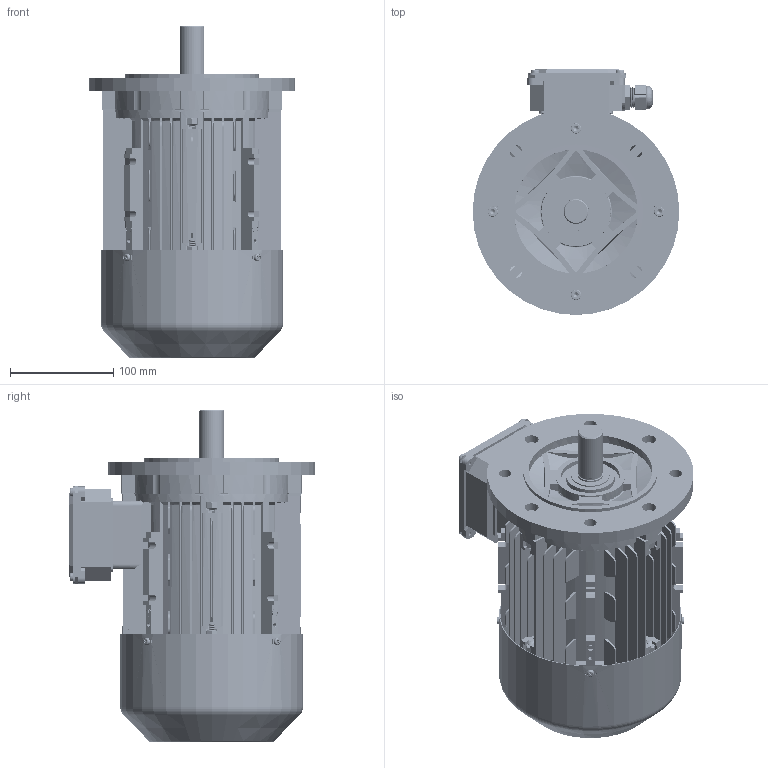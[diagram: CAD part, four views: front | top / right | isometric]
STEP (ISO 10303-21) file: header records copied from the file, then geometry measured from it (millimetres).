
FILE_DESCRIPTION (( 'STEP AP203' ), '1' );
FILE_NAME ('ME3-90SB5 3D.STEP', '2024-06-06T09:42:01', ( 'User' ), ( 'China' ), 'SwSTEP 2.0', 'SolidWorks 2018', '' );
FILE_SCHEMA (( 'CONFIG_CONTROL_DESIGN' ));
Length unit declared in the file: millimetre
Products named in the file (19): deep groove ball bearings gb_Rolling bearings 6205 GB 276-94; ME3-90SB5  3D; hexagon socket head cap screws gb_GB_FASTENER_SCREWS_HSHCS M6X35-S; 8.200.09005蛌粣ME3-90; hexagon nuts grade c gb_GB_FASTENER_NUT_SNC1 M6-S; MS63-71諉盄碟菁釱; 8.306.09004ME2-90瑞欶; MS63-71諉盄碟裔; cross recessed cheese head screws gb_GB_CROSS_SCREWS_TYPE2 M4X6-6  H type-N; 蹟杶郋M20X1.5; 蚐猾37X25X7; 蹟簸M20X1.5; spring lock washers--normal type gb_GB_FASTENER_WASHER_SW 6; Y2 80瑞珔; 8.014.09013 ME2 90B5; circlips for shaft--type a large gb_GB_CONNECTING_PIECE_RING_RRA 19; 8.034.09004ME2-90S儂褲; 黑芛20X1.5; cross recessed cheese head screws gb_GB_CROSS_SCREWS_TYPE2 M5X8-8  H type-N
Assembly tree (44 placements, depth 2):
  ME3-90SB5  3D
    8.034.09004ME2-90S儂褲
    deep groove ball bearings gb_Rolling bearings 6205 GB 276-94  x2
    8.200.09005蛌粣ME3-90
    MS63-71諉盄碟菁釱
    MS63-71諉盄碟裔
    蹟杶郋M20X1.5
    蹟簸M20X1.5
    Y2 80瑞珔
    circlips for shaft--type a large gb_GB_CONNECTING_PIECE_RING_RRA 19
    cross recessed cheese head screws gb_GB_CROSS_SCREWS_TYPE2 M5X8-8  H type-N  x4
    hexagon socket head cap screws gb_GB_FASTENER_SCREWS_HSHCS M6X35-S  x10
    hexagon nuts grade c gb_GB_FASTENER_NUT_SNC1 M6-S  x8
    8.306.09004ME2-90瑞欶
    cross recessed cheese head screws gb_GB_CROSS_SCREWS_TYPE2 M4X6-6  H type-N  x4
    蚐猾37X25X7
    spring lock washers--normal type gb_GB_FASTENER_WASHER_SW 6  x4
    8.014.09013 ME2 90B5
    黑芛20X1.5
Bounding box: 200 x 238 x 321.21 mm (x, y, z)
Volume: 1122565.2 mm3; surface area: 748522 mm2
Topology: 60 solids, 60 shells, 6495 faces, 16232 edges, 9776 vertices
Faces by surface type: plane 2389, cone 2042, cylinder 1639, torus 209, bspline 152, sphere 64
Entity records: 132535 total; most frequent: CARTESIAN_POINT 43409, ORIENTED_EDGE 19228, DIRECTION 16363, EDGE_CURVE 9614, VERTEX_POINT 6233, LINE 5703, VECTOR 5703, AXIS2_PLACEMENT_3D 5330
